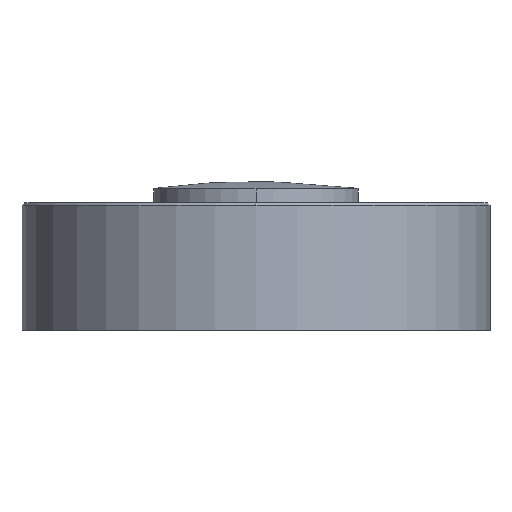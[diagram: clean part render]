
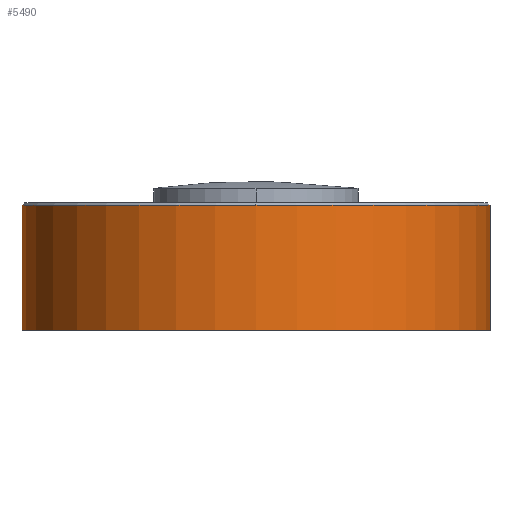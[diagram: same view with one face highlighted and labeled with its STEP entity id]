
A CAD part, left-side view. The second image highlights one B-rep face of the part: STEP entity #5490.
In plain terms, the highlighted cylindrical face has radius 139.649 mm (diameter 279.298 mm), a partial arc.
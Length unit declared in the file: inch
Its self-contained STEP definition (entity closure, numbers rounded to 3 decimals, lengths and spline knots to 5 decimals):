
#1627 = CARTESIAN_POINT ( 'NONE',  ( 0., -5.498, -0.06 ) ) ;
#3584 = LINE ( 'NONE', #3585, #3586 ) ;
#3585 = CARTESIAN_POINT ( 'NONE',  ( 0., 5.498, -0.06 ) ) ;
#3586 = VECTOR ( 'NONE', #3587, 39.37008 ) ;
#3587 = DIRECTION ( 'NONE',  ( 0., 0., -1. ) ) ;
#3942 = ORIENTED_EDGE ( 'NONE', *, *, #5415, .F. ) ;
#4126 = CARTESIAN_POINT ( 'NONE',  ( 0., 5.498, -2.999 ) ) ;
#4510 = EDGE_CURVE ( 'NONE', #5373, #12410, #9449, .T. ) ;
#4870 = LINE ( 'NONE', #4871, #4872 ) ;
#4871 = CARTESIAN_POINT ( 'NONE',  ( 0., -5.498, -0.06 ) ) ;
#4872 = VECTOR ( 'NONE', #4873, 39.37008 ) ;
#4873 = DIRECTION ( 'NONE',  ( 0., 0., -1. ) ) ;
#4904 = ORIENTED_EDGE ( 'NONE', *, *, #4510, .F. ) ;
#5293 = ORIENTED_EDGE ( 'NONE', *, *, #8256, .F. ) ;
#5373 = VERTEX_POINT ( 'NONE', #10237 ) ;
#5415 = EDGE_CURVE ( 'NONE', #5740, #5373, #10367, .T. ) ;
#5433 = EDGE_LOOP ( 'NONE', ( #5293, #4904, #3942, #6860, #6748 ) ) ;
#5490 = ADVANCED_FACE ( 'NONE', ( #10705 ), #10706, .T. ) ;
#5551 = VERTEX_POINT ( 'NONE', #10981 ) ;
#5740 = VERTEX_POINT ( 'NONE', #12029 ) ;
#5842 = EDGE_CURVE ( 'NONE', #7115, #5551, #12682, .T. ) ;
#6748 = ORIENTED_EDGE ( 'NONE', *, *, #5842, .T. ) ;
#6860 = ORIENTED_EDGE ( 'NONE', *, *, #6918, .T. ) ;
#6918 = EDGE_CURVE ( 'NONE', #5740, #7115, #3584, .T. ) ;
#7115 = VERTEX_POINT ( 'NONE', #4126 ) ;
#8256 = EDGE_CURVE ( 'NONE', #12410, #5551, #4870, .T. ) ;
#9449 = CIRCLE ( 'NONE', #9450, 5.498 ) ;
#9450 = AXIS2_PLACEMENT_3D ( 'NONE', #9451, #9452, #9453 ) ;
#9451 = CARTESIAN_POINT ( 'NONE',  ( 0., 0., -0.06 ) ) ;
#9452 = DIRECTION ( 'NONE',  ( 0., 0., 1. ) ) ;
#9453 = DIRECTION ( 'NONE',  ( -1., 0., 0. ) ) ;
#10237 = CARTESIAN_POINT ( 'NONE',  ( -5.498, 0., -0.06 ) ) ;
#10367 = CIRCLE ( 'NONE', #10368, 5.498 ) ;
#10368 = AXIS2_PLACEMENT_3D ( 'NONE', #10369, #10370, #10371 ) ;
#10369 = CARTESIAN_POINT ( 'NONE',  ( 0., 0., -0.06 ) ) ;
#10370 = DIRECTION ( 'NONE',  ( 0., 0., 1. ) ) ;
#10371 = DIRECTION ( 'NONE',  ( -1., 0., 0. ) ) ;
#10705 = FACE_OUTER_BOUND ( 'NONE', #5433, .T. ) ;
#10706 = CYLINDRICAL_SURFACE ( 'NONE', #10707, 5.498 ) ;
#10707 = AXIS2_PLACEMENT_3D ( 'NONE', #10708, #10709, #10710 ) ;
#10708 = CARTESIAN_POINT ( 'NONE',  ( 0., 0., -0.06 ) ) ;
#10709 = DIRECTION ( 'NONE',  ( 0., 0., -1. ) ) ;
#10710 = DIRECTION ( 'NONE',  ( 0., 1., 0. ) ) ;
#10981 = CARTESIAN_POINT ( 'NONE',  ( 0., -5.498, -2.999 ) ) ;
#12029 = CARTESIAN_POINT ( 'NONE',  ( 0., 5.498, -0.06 ) ) ;
#12410 = VERTEX_POINT ( 'NONE', #1627 ) ;
#12682 = CIRCLE ( 'NONE', #12683, 5.498 ) ;
#12683 = AXIS2_PLACEMENT_3D ( 'NONE', #12684, #12685, #12686 ) ;
#12684 = CARTESIAN_POINT ( 'NONE',  ( 0., 0., -2.999 ) ) ;
#12685 = DIRECTION ( 'NONE',  ( 0., 0., 1. ) ) ;
#12686 = DIRECTION ( 'NONE',  ( 0., 1., 0. ) ) ;
